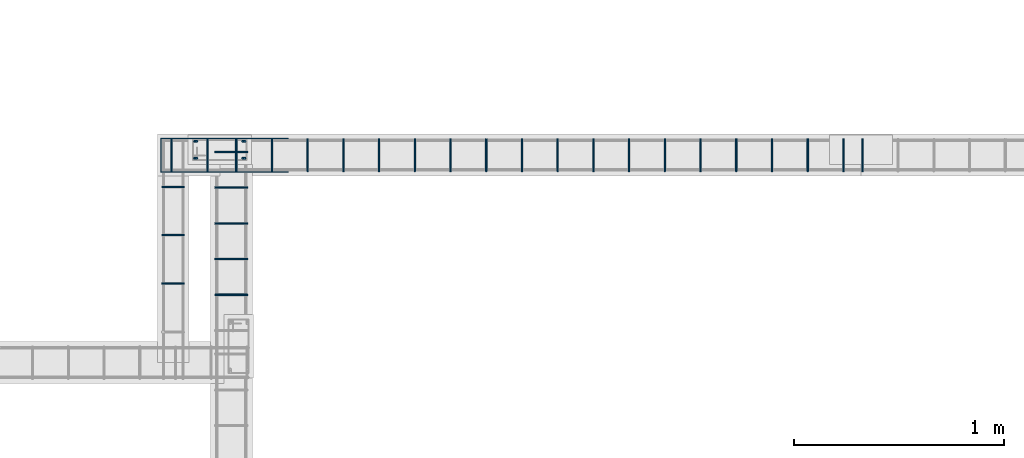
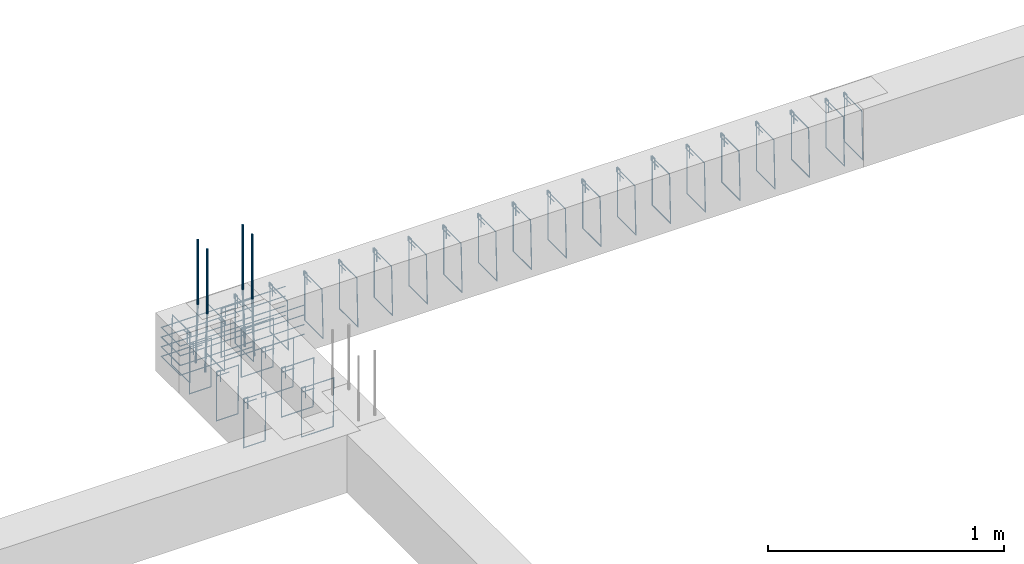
# One storey, part 123 of 150: 37 reinforcing bars.
"""IFC4 building model written with IfcOpenShell, lengths in centimetres."""

from ifc_helpers import new_model, entity, si_unit, derived_unit, frame, origin_with_axes, place, context, project, spatial, source, transform, mapped, element, save


model = new_model("IFC4")

# Units and contexts
model_context = context("Model", 3, precision=1e-05, world=origin_with_axes(), identifier="Body")
ifc_project = project(units=[si_unit("LENGTHUNIT", "METRE", prefix="CENTI"), si_unit("VOLUMEUNIT", "CUBIC_METRE"), si_unit("AREAUNIT", "SQUARE_METRE"), si_unit("POWERUNIT", "WATT"), si_unit("LUMINOUSFLUXUNIT", "LUMEN"), si_unit("ELECTRICCURRENTUNIT", "AMPERE"), si_unit("PRESSUREUNIT", "PASCAL", prefix="KILO"), si_unit("MASSUNIT", "GRAM", prefix="KILO"), si_unit("PLANEANGLEUNIT", "RADIAN"), derived_unit("VOLUMETRICFLOWRATEUNIT", [(si_unit("LENGTHUNIT", "METRE"), 3), (si_unit("TIMEUNIT", "SECOND"), -1)])], contexts=[model_context])

# Site, building, storey
site_placement = place(None, frame((-4000.0, 0.0, 0.0), z_axis=(0.0, 0.0, 1.0), x_axis=(1.0, 0.0, 0.0)))
site = spatial("IfcSite", under=ifc_project, at=site_placement, Name="PADRÃO")
building_placement = place(site_placement, frame((0.0, 0.0, -14.0)))
building = spatial("IfcBuilding", under=site, at=building_placement, Name="CRECHE PRÉ-ESCOLA TIPO 2")
placement = place(building_placement, origin_with_axes())
storey_placement = place(placement, frame((0.0, 0.0, 30.0), z_axis=(0.0, 0.0, 1.0), x_axis=(1.0, 0.0, 0.0)))
storey = spatial("IfcBuildingStorey", under=building, at=storey_placement, Name="VIGA BALDRAME", CompositionType="ELEMENT", Elevation=16.0)

# Reinforcing bars
shared_shape_1 = source(origin_with_axes(), model_context, "Body", "AdvancedSweptSolid", [
    entity("IfcSweptDiskSolid", entity("IfcCompositeCurve", [entity("IfcCompositeCurveSegment", "CONTINUOUS", True, entity("IfcPolyline", [entity("IfcCartesianPoint", [2.0, -6.0, 0.0]), entity("IfcCartesianPoint", [2.0, 0.0, 0.0])])), entity("IfcCompositeCurveSegment", "CONTINUOUS", True, entity("IfcPolyline", [entity("IfcCartesianPoint", [2.0, 0.0, 0.0]), entity("IfcCartesianPoint", [0.0, 0.0, 0.0])])), entity("IfcCompositeCurveSegment", "CONTINUOUS", True, entity("IfcPolyline", [entity("IfcCartesianPoint", [0.0, 0.0, 0.0]), entity("IfcCartesianPoint", [0.0, -25.5, 0.0])])), entity("IfcCompositeCurveSegment", "CONTINUOUS", True, entity("IfcPolyline", [entity("IfcCartesianPoint", [0.0, -25.5, 0.0]), entity("IfcCartesianPoint", [15.5, -25.5, 0.0])])), entity("IfcCompositeCurveSegment", "CONTINUOUS", True, entity("IfcPolyline", [entity("IfcCartesianPoint", [15.5, -25.5, 0.0]), entity("IfcCartesianPoint", [15.5, 0.0, 0.5])])), entity("IfcCompositeCurveSegment", "CONTINUOUS", True, entity("IfcPolyline", [entity("IfcCartesianPoint", [15.5, 0.0, 0.5]), entity("IfcCartesianPoint", [0.0, 0.0, 0.5])])), entity("IfcCompositeCurveSegment", "CONTINUOUS", True, entity("IfcPolyline", [entity("IfcCartesianPoint", [0.0, 0.0, 0.5]), entity("IfcCartesianPoint", [0.0, -2.0, 0.5])])), entity("IfcCompositeCurveSegment", "CONTINUOUS", True, entity("IfcPolyline", [entity("IfcCartesianPoint", [0.0, -2.0, 0.5]), entity("IfcCartesianPoint", [6.0, -2.0, 0.5])]))], False), 0.25),
])
for number, where, z_axis, x_axis, name in (
    (1, (488.5, 4074.74, -2.25), (1.0, 0.0, 0.0), (0.0, 1.0, 0.0), "V102 - Estribo"),
    (2, (471.5, 4074.74, -2.25), (1.0, 0.0, 0.0), (0.0, 1.0, 0.0), "V102 - Estribo"),
):
    element("IfcReinforcingBar", number, at=place(storey_placement, frame(where, z_axis=z_axis, x_axis=x_axis)), inside=storey, Name=name, BarLength=0.0, CrossSectionArea=1.9634954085e-05, NominalDiameter=0.5, PredefinedType="MAIN", context=model_context, shape_type="MappedRepresentation", body=[
        mapped(shared_shape_1, transform((0.0, 0.0, 0.0), scale=1.0)),
    ])
shared_shape_2 = source(origin_with_axes(), model_context, "Body", "AdvancedSweptSolid", [
    entity("IfcSweptDiskSolid", entity("IfcCompositeCurve", [entity("IfcCompositeCurveSegment", "CONTINUOUS", True, entity("IfcPolyline", [entity("IfcCartesianPoint", [2.0, -6.0, 0.0]), entity("IfcCartesianPoint", [2.0, 0.0, 0.0])])), entity("IfcCompositeCurveSegment", "CONTINUOUS", True, entity("IfcPolyline", [entity("IfcCartesianPoint", [2.0, 0.0, 0.0]), entity("IfcCartesianPoint", [0.0, 0.0, 0.0])])), entity("IfcCompositeCurveSegment", "CONTINUOUS", True, entity("IfcPolyline", [entity("IfcCartesianPoint", [0.0, 0.0, 0.0]), entity("IfcCartesianPoint", [0.0, -25.5, 0.0])])), entity("IfcCompositeCurveSegment", "CONTINUOUS", True, entity("IfcPolyline", [entity("IfcCartesianPoint", [0.0, -25.5, 0.0]), entity("IfcCartesianPoint", [15.5, -25.5, 0.0])])), entity("IfcCompositeCurveSegment", "CONTINUOUS", True, entity("IfcPolyline", [entity("IfcCartesianPoint", [15.5, -25.5, 0.0]), entity("IfcCartesianPoint", [15.5, 0.0, 0.5])])), entity("IfcCompositeCurveSegment", "CONTINUOUS", True, entity("IfcPolyline", [entity("IfcCartesianPoint", [15.5, 0.0, 0.5]), entity("IfcCartesianPoint", [0.0, 0.0, 0.5])])), entity("IfcCompositeCurveSegment", "CONTINUOUS", True, entity("IfcPolyline", [entity("IfcCartesianPoint", [0.0, 0.0, 0.5]), entity("IfcCartesianPoint", [0.0, -2.0, 0.5])])), entity("IfcCompositeCurveSegment", "CONTINUOUS", True, entity("IfcPolyline", [entity("IfcCartesianPoint", [0.0, -2.0, 0.5]), entity("IfcCartesianPoint", [6.0, -2.0, 0.5])]))], False), 0.25),
])
for number, where, z_axis, x_axis, name in (
    (3, (604.76, 4090.24, -2.25), (-1.0, 0.0, 0.0), (0.0, -1.0, 0.0), "V102 - Estribo"),
    (4, (621.76, 4090.24, -2.25), (-1.0, 0.0, 0.0), (0.0, -1.0, 0.0), "V102 - Estribo"),
    (5, (638.76, 4090.24, -2.25), (-1.0, 0.0, 0.0), (0.0, -1.0, 0.0), "V102 - Estribo"),
    (6, (740.76, 4090.24, -2.25), (-1.0, 0.0, 0.0), (0.0, -1.0, 0.0), "V102 - Estribo"),
    (7, (774.76, 4090.24, -2.25), (-1.0, 0.0, 0.0), (0.0, -1.0, 0.0), "V102 - Estribo"),
    (8, (757.76, 4090.24, -2.25), (-1.0, 0.0, 0.0), (0.0, -1.0, 0.0), "V102 - Estribo"),
    (9, (723.76, 4090.24, -2.25), (-1.0, 0.0, 0.0), (0.0, -1.0, 0.0), "V102 - Estribo"),
    (10, (655.76, 4090.24, -2.25), (-1.0, 0.0, 0.0), (0.0, -1.0, 0.0), "V102 - Estribo"),
    (11, (672.76, 4090.24, -2.25), (-1.0, 0.0, 0.0), (0.0, -1.0, 0.0), "V102 - Estribo"),
    (12, (689.76, 4090.24, -2.25), (-1.0, 0.0, 0.0), (0.0, -1.0, 0.0), "V102 - Estribo"),
    (13, (519.76, 4090.24, -2.25), (-1.0, 0.0, 0.0), (0.0, -1.0, 0.0), "V102 - Estribo"),
    (14, (502.76, 4090.24, -2.25), (-1.0, 0.0, 0.0), (0.0, -1.0, 0.0), "V102 - Estribo"),
    (15, (791.76, 4090.24, -2.25), (-1.0, 0.0, 0.0), (0.0, -1.0, 0.0), "V102 - Estribo"),
    (16, (706.76, 4090.24, -2.25), (-1.0, 0.0, 0.0), (0.0, -1.0, 0.0), "V102 - Estribo"),
    (17, (536.76, 4090.24, -2.25), (-1.0, 0.0, 0.0), (0.0, -1.0, 0.0), "V102 - Estribo"),
    (18, (553.76, 4090.24, -2.25), (-1.0, 0.0, 0.0), (0.0, -1.0, 0.0), "V102 - Estribo"),
    (19, (570.76, 4090.24, -2.25), (-1.0, 0.0, 0.0), (0.0, -1.0, 0.0), "V102 - Estribo"),
    (20, (587.76, 4090.24, -2.25), (-1.0, 0.0, 0.0), (0.0, -1.0, 0.0), "V102 - Estribo"),
):
    element("IfcReinforcingBar", number, at=place(storey_placement, frame(where, z_axis=z_axis, x_axis=x_axis)), inside=storey, Name=name, BarLength=0.0, CrossSectionArea=1.9634954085e-05, NominalDiameter=0.5, PredefinedType="MAIN", context=model_context, shape_type="MappedRepresentation", body=[
        mapped(shared_shape_2, transform((0.0, 0.0, 0.0), scale=1.0)),
    ])
shared_shape_3 = source(origin_with_axes(), model_context, "Body", "AdvancedSweptSolid", [
    entity("IfcSweptDiskSolid", entity("IfcCompositeCurve", [entity("IfcCompositeCurveSegment", "CONTINUOUS", True, entity("IfcPolyline", [entity("IfcCartesianPoint", [2.0, -6.0, 0.0]), entity("IfcCartesianPoint", [2.0, 0.0, 0.0])])), entity("IfcCompositeCurveSegment", "CONTINUOUS", True, entity("IfcPolyline", [entity("IfcCartesianPoint", [2.0, 0.0, 0.0]), entity("IfcCartesianPoint", [0.0, 0.0, 0.0])])), entity("IfcCompositeCurveSegment", "CONTINUOUS", True, entity("IfcPolyline", [entity("IfcCartesianPoint", [0.0, 0.0, 0.0]), entity("IfcCartesianPoint", [0.0, -25.5, 0.0])])), entity("IfcCompositeCurveSegment", "CONTINUOUS", True, entity("IfcPolyline", [entity("IfcCartesianPoint", [0.0, -25.5, 0.0]), entity("IfcCartesianPoint", [15.5, -25.5, 0.0])])), entity("IfcCompositeCurveSegment", "CONTINUOUS", True, entity("IfcPolyline", [entity("IfcCartesianPoint", [15.5, -25.5, 0.0]), entity("IfcCartesianPoint", [15.5, 0.0, 0.5])])), entity("IfcCompositeCurveSegment", "CONTINUOUS", True, entity("IfcPolyline", [entity("IfcCartesianPoint", [15.5, 0.0, 0.5]), entity("IfcCartesianPoint", [0.0, 0.0, 0.5])])), entity("IfcCompositeCurveSegment", "CONTINUOUS", True, entity("IfcPolyline", [entity("IfcCartesianPoint", [0.0, 0.0, 0.5]), entity("IfcCartesianPoint", [0.0, -2.0, 0.5])])), entity("IfcCompositeCurveSegment", "CONTINUOUS", True, entity("IfcPolyline", [entity("IfcCartesianPoint", [0.0, -2.0, 0.5]), entity("IfcCartesianPoint", [6.0, -2.0, 0.5])]))], False), 0.25),
])
reinforcing_bar_1_placement = place(storey_placement, frame((800.78, 4090.24, -2.25), z_axis=(-1.0, 0.0, 0.0), x_axis=(0.0, -1.0, 0.0)))
element("IfcReinforcingBar", 21, at=reinforcing_bar_1_placement, inside=storey, Name="V102 - Estribo", BarLength=0.0, CrossSectionArea=1.9634954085e-05, NominalDiameter=0.5, PredefinedType="MAIN", context=model_context, shape_type="MappedRepresentation", body=[
    mapped(shared_shape_3, transform((0.0, 0.0, 0.0), scale=1.0)),
])
shared_shape_4 = source(origin_with_axes(), model_context, "Body", "AdvancedSweptSolid", [
    entity("IfcSweptDiskSolid", entity("IfcCompositeCurve", [entity("IfcCompositeCurveSegment", "CONTINUOUS", True, entity("IfcPolyline", [entity("IfcCartesianPoint", [0.0, 0.0, 0.0]), entity("IfcCartesianPoint", [-60.7013828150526, 0.0, 0.0])])), entity("IfcCompositeCurveSegment", "CONTINUOUS", True, entity("IfcPolyline", [entity("IfcCartesianPoint", [-60.7013828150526, 0.0, 0.0]), entity("IfcCartesianPoint", [-60.7013828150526, -16.0, 0.0])])), entity("IfcCompositeCurveSegment", "CONTINUOUS", True, entity("IfcPolyline", [entity("IfcCartesianPoint", [-60.7013828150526, -16.0, 0.0]), entity("IfcCartesianPoint", [0.0, -16.0, 0.0])]))], False), 0.25),
])
for number, where, z_axis, x_axis, name in (
    (22, (527.451382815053, 4090.49, -7.1), (0.0, 0.0, 1.0), (1.0, 0.0, 0.0), "V102 - Grampo"),
    (23, (527.451382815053, 4090.49, -17.1), (0.0, 0.0, 1.0), (1.0, 0.0, 0.0), "V102 - Grampo"),
    (24, (527.451382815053, 4090.49, -22.1), (0.0, 0.0, 1.0), (1.0, 0.0, 0.0), "V102 - Grampo"),
    (25, (527.451382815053, 4090.49, -12.1), (0.0, 0.0, 1.0), (1.0, 0.0, 0.0), "V102 - Grampo"),
):
    element("IfcReinforcingBar", number, at=place(storey_placement, frame(where, z_axis=z_axis, x_axis=x_axis)), inside=storey, Name=name, BarLength=0.0, CrossSectionArea=1.9634954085e-05, NominalDiameter=0.5, PredefinedType="MAIN", context=model_context, shape_type="MappedRepresentation", body=[
        mapped(shared_shape_4, transform((0.0, 0.0, 0.0), scale=1.0)),
    ])
shared_shape_5 = source(origin_with_axes(), model_context, "Body", "AdvancedSweptSolid", [
    entity("IfcSweptDiskSolid", entity("IfcCompositeCurve", [entity("IfcCompositeCurveSegment", "CONTINUOUS", True, entity("IfcPolyline", [entity("IfcCartesianPoint", [2.0, -6.0, 0.0]), entity("IfcCartesianPoint", [2.0, 0.0, 0.0])])), entity("IfcCompositeCurveSegment", "CONTINUOUS", True, entity("IfcPolyline", [entity("IfcCartesianPoint", [2.0, 0.0, 0.0]), entity("IfcCartesianPoint", [0.0, 0.0, 0.0])])), entity("IfcCompositeCurveSegment", "CONTINUOUS", True, entity("IfcPolyline", [entity("IfcCartesianPoint", [0.0, 0.0, 0.0]), entity("IfcCartesianPoint", [0.0, -25.5, 0.0])])), entity("IfcCompositeCurveSegment", "CONTINUOUS", True, entity("IfcPolyline", [entity("IfcCartesianPoint", [0.0, -25.5, 0.0]), entity("IfcCartesianPoint", [10.5, -25.5, 0.0])])), entity("IfcCompositeCurveSegment", "CONTINUOUS", True, entity("IfcPolyline", [entity("IfcCartesianPoint", [10.5, -25.5, 0.0]), entity("IfcCartesianPoint", [10.5, 0.0, 0.5])])), entity("IfcCompositeCurveSegment", "CONTINUOUS", True, entity("IfcPolyline", [entity("IfcCartesianPoint", [10.5, 0.0, 0.5]), entity("IfcCartesianPoint", [0.0, 0.0, 0.5])])), entity("IfcCompositeCurveSegment", "CONTINUOUS", True, entity("IfcPolyline", [entity("IfcCartesianPoint", [0.0, 0.0, 0.5]), entity("IfcCartesianPoint", [0.0, -2.0, 0.5])])), entity("IfcCompositeCurveSegment", "CONTINUOUS", True, entity("IfcPolyline", [entity("IfcCartesianPoint", [0.0, -2.0, 0.5]), entity("IfcCartesianPoint", [6.0, -2.0, 0.5])]))], False), 0.25),
])
for number, where, z_axis, x_axis, name in (
    (26, (467.25, 4067.62, -2.25), (0.0, -1.0, 0.0), (1.0, 0.0, 0.0), "V174 - Estribo"),
    (27, (467.25, 4044.62, -2.25), (0.0, -1.0, 0.0), (1.0, 0.0, 0.0), "V174 - Estribo"),
    (28, (467.25, 4021.62, -2.25), (0.0, -1.0, 0.0), (1.0, 0.0, 0.0), "V174 - Estribo"),
):
    element("IfcReinforcingBar", number, at=place(storey_placement, frame(where, z_axis=z_axis, x_axis=x_axis)), inside=storey, Name=name, BarLength=0.0, CrossSectionArea=1.9634954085e-05, NominalDiameter=0.5, PredefinedType="MAIN", context=model_context, shape_type="MappedRepresentation", body=[
        mapped(shared_shape_5, transform((0.0, 0.0, 0.0), scale=1.0)),
    ])
shared_shape_6 = source(origin_with_axes(), model_context, "Body", "AdvancedSweptSolid", [
    entity("IfcSweptDiskSolid", entity("IfcCompositeCurve", [entity("IfcCompositeCurveSegment", "CONTINUOUS", True, entity("IfcPolyline", [entity("IfcCartesianPoint", [2.0, -6.0, 0.0]), entity("IfcCartesianPoint", [2.0, 0.0, 0.0])])), entity("IfcCompositeCurveSegment", "CONTINUOUS", True, entity("IfcPolyline", [entity("IfcCartesianPoint", [2.0, 0.0, 0.0]), entity("IfcCartesianPoint", [0.0, 0.0, 0.0])])), entity("IfcCompositeCurveSegment", "CONTINUOUS", True, entity("IfcPolyline", [entity("IfcCartesianPoint", [0.0, 0.0, 0.0]), entity("IfcCartesianPoint", [0.0, -25.5, 0.0])])), entity("IfcCompositeCurveSegment", "CONTINUOUS", True, entity("IfcPolyline", [entity("IfcCartesianPoint", [0.0, -25.5, 0.0]), entity("IfcCartesianPoint", [15.5, -25.5, 0.0])])), entity("IfcCompositeCurveSegment", "CONTINUOUS", True, entity("IfcPolyline", [entity("IfcCartesianPoint", [15.5, -25.5, 0.0]), entity("IfcCartesianPoint", [15.5, 0.0, 0.5])])), entity("IfcCompositeCurveSegment", "CONTINUOUS", True, entity("IfcPolyline", [entity("IfcCartesianPoint", [15.5, 0.0, 0.5]), entity("IfcCartesianPoint", [0.0, 0.0, 0.5])])), entity("IfcCompositeCurveSegment", "CONTINUOUS", True, entity("IfcPolyline", [entity("IfcCartesianPoint", [0.0, 0.0, 0.5]), entity("IfcCartesianPoint", [0.0, -2.0, 0.5])])), entity("IfcCompositeCurveSegment", "CONTINUOUS", True, entity("IfcPolyline", [entity("IfcCartesianPoint", [0.0, -2.0, 0.5]), entity("IfcCartesianPoint", [6.0, -2.0, 0.5])]))], False), 0.25),
])
for number, where, z_axis, x_axis, name in (
    (29, (492.44, 4016.25, -2.25), (0.0, -1.0, 0.0), (1.0, 0.0, 0.0), "V173 - Estribo"),
    (30, (492.44, 4033.25, -2.25), (0.0, -1.0, 0.0), (1.0, 0.0, 0.0), "V173 - Estribo"),
    (31, (492.44, 4084.25, -2.25), (0.0, -1.0, 0.0), (1.0, 0.0, 0.0), "V173 - Estribo"),
    (32, (492.44, 4050.25, -2.25), (0.0, -1.0, 0.0), (1.0, 0.0, 0.0), "V173 - Estribo"),
    (33, (492.44, 4067.25, -2.25), (0.0, -1.0, 0.0), (1.0, 0.0, 0.0), "V173 - Estribo"),
):
    element("IfcReinforcingBar", number, at=place(storey_placement, frame(where, z_axis=z_axis, x_axis=x_axis)), inside=storey, Name=name, BarLength=0.0, CrossSectionArea=1.9634954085e-05, NominalDiameter=0.5, PredefinedType="MAIN", context=model_context, shape_type="MappedRepresentation", body=[
        mapped(shared_shape_6, transform((0.0, 0.0, 0.0), scale=1.0)),
    ])
reinforcing_bar_2_placement = place(storey_placement, frame((483.170138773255, 4089.0, 33.3573001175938), z_axis=(0.0, 0.0, 1.0), x_axis=(1.0, 0.0, 0.0)))
element("IfcReinforcingBar", 34, at=reinforcing_bar_2_placement, inside=storey, Name="P17 - Longitudinal", BarLength=0.0, CrossSectionArea=7.853981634e-05, NominalDiameter=1.0, PredefinedType="MAIN", context=model_context, shape_type="AdvancedSweptSolid", body=[
    entity("IfcSweptDiskSolid", entity("IfcCompositeCurve", [entity("IfcCompositeCurveSegment", "CONTINUOUS", True, entity("IfcPolyline", [entity("IfcCartesianPoint", [-0.500138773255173, 0.0, -63.3573001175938]), entity("IfcCartesianPoint", [0.499861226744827, 0.0, -33.3573001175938])])), entity("IfcCompositeCurveSegment", "CONTINUOUS", True, entity("IfcPolyline", [entity("IfcCartesianPoint", [0.499861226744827, 0.0, -33.3573001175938]), entity("IfcCartesianPoint", [0.499861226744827, 0.0, 0.0])]))], False), 0.5),
])
for number, where, z_axis, x_axis, name in (
    (35, (506.169861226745, 4089.0, 33.3573001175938), (0.0, 0.0, 1.0), (1.0, 0.0, 0.0), "P17 - Longitudinal"),
    (36, (506.169861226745, 4081.0, 33.3573001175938), (0.0, 0.0, 1.0), (1.0, 0.0, 0.0), "P17 - Longitudinal"),
):
    element("IfcReinforcingBar", number, at=place(storey_placement, frame(where, z_axis=z_axis, x_axis=x_axis)), inside=storey, Name=name, BarLength=0.0, CrossSectionArea=7.853981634e-05, NominalDiameter=1.0, PredefinedType="MAIN", context=model_context, shape_type="AdvancedSweptSolid", body=[
        entity("IfcSweptDiskSolid", entity("IfcCompositeCurve", [entity("IfcCompositeCurveSegment", "CONTINUOUS", True, entity("IfcPolyline", [entity("IfcCartesianPoint", [0.500138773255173, 0.0, -63.3573001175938]), entity("IfcCartesianPoint", [-0.499861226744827, 0.0, -33.3573001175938])])), entity("IfcCompositeCurveSegment", "CONTINUOUS", True, entity("IfcPolyline", [entity("IfcCartesianPoint", [-0.499861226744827, 0.0, -33.3573001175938]), entity("IfcCartesianPoint", [-0.499861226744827, 0.0, 0.0])]))], False), 0.5),
    ])
reinforcing_bar_3_placement = place(storey_placement, frame((483.170138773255, 4081.0, 33.3573001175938), z_axis=(0.0, 0.0, 1.0), x_axis=(1.0, 0.0, 0.0)))
element("IfcReinforcingBar", 37, at=reinforcing_bar_3_placement, inside=storey, Name="P17 - Longitudinal", BarLength=0.0, CrossSectionArea=7.853981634e-05, NominalDiameter=1.0, PredefinedType="MAIN", context=model_context, shape_type="AdvancedSweptSolid", body=[
    entity("IfcSweptDiskSolid", entity("IfcCompositeCurve", [entity("IfcCompositeCurveSegment", "CONTINUOUS", True, entity("IfcPolyline", [entity("IfcCartesianPoint", [-0.500138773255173, 0.0, -63.3573001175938]), entity("IfcCartesianPoint", [0.499861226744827, 0.0, -33.3573001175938])])), entity("IfcCompositeCurveSegment", "CONTINUOUS", True, entity("IfcPolyline", [entity("IfcCartesianPoint", [0.499861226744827, 0.0, -33.3573001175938]), entity("IfcCartesianPoint", [0.499861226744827, 0.0, 0.0])]))], False), 0.5),
])

save(model, "model.ifc")
